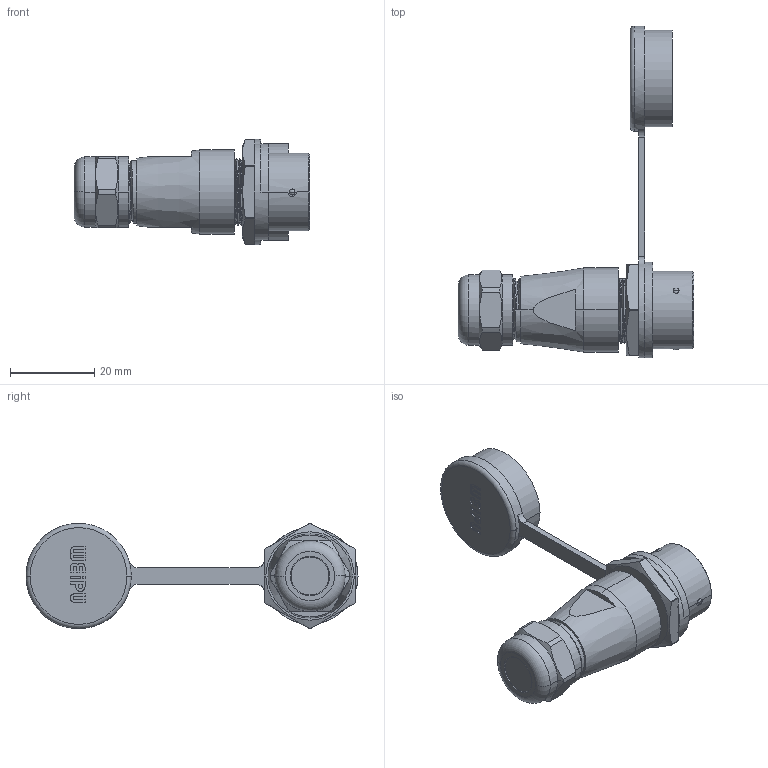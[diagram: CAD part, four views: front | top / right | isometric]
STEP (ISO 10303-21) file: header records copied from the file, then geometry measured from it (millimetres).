
FILE_DESCRIPTION((''),'2;1');
FILE_NAME('SF1611S3-FW','2018-04-20T',('Administrator'),(''),'PRO/ENGINEER BY PARAMETRIC TECHNOLOGY CORPORATION, 2013150','PRO/ENGINEER BY PARAMETRIC TECHNOLOGY CORPORATION, 2013150','');
FILE_SCHEMA(('CONFIG_CONTROL_DESIGN'));
Length unit declared in the file: millimetre
Products named in the file (1): SF1611S3-FW
Bounding box: 55.99 x 78.9 x 25 mm (x, y, z)
Volume: 16735.2 mm3; surface area: 7622.4 mm2
Topology: 1 solids, 1 shells, 210 faces, 538 edges, 342 vertices
Faces by surface type: plane 101, cylinder 55, cone 22, sphere 12, bspline 12, torus 8
Entity records: 8718 total; most frequent: CARTESIAN_POINT 3680, ORIENTED_EDGE 1048, DIRECTION 1023, EDGE_CURVE 524, AXIS2_PLACEMENT_3D 384, VERTEX_POINT 342, VECTOR 255, LINE 255
